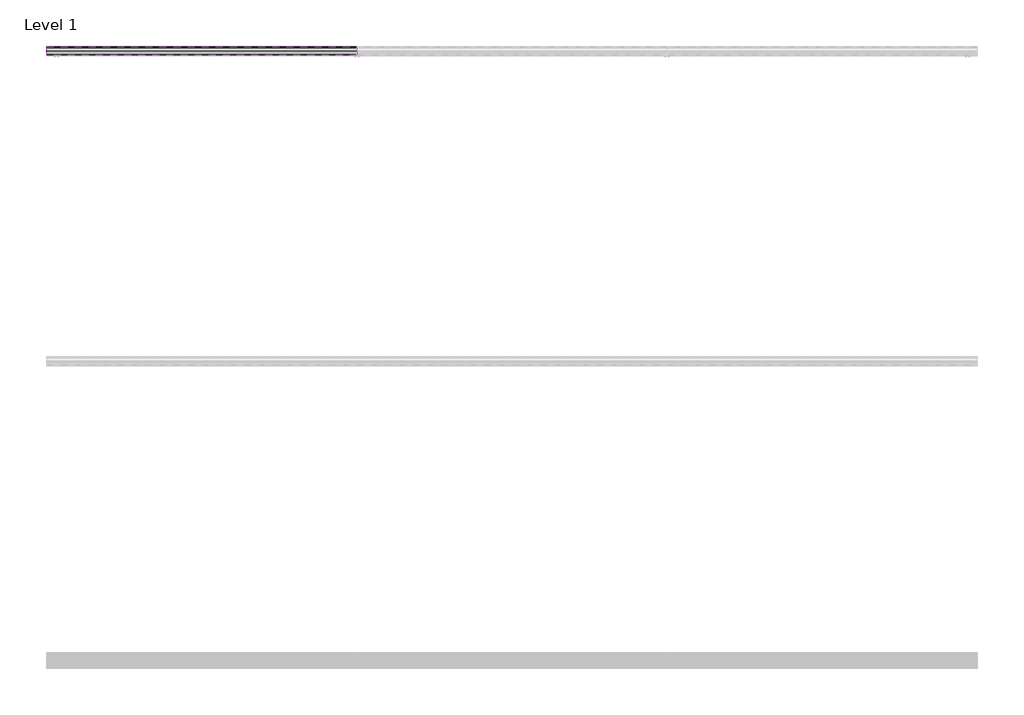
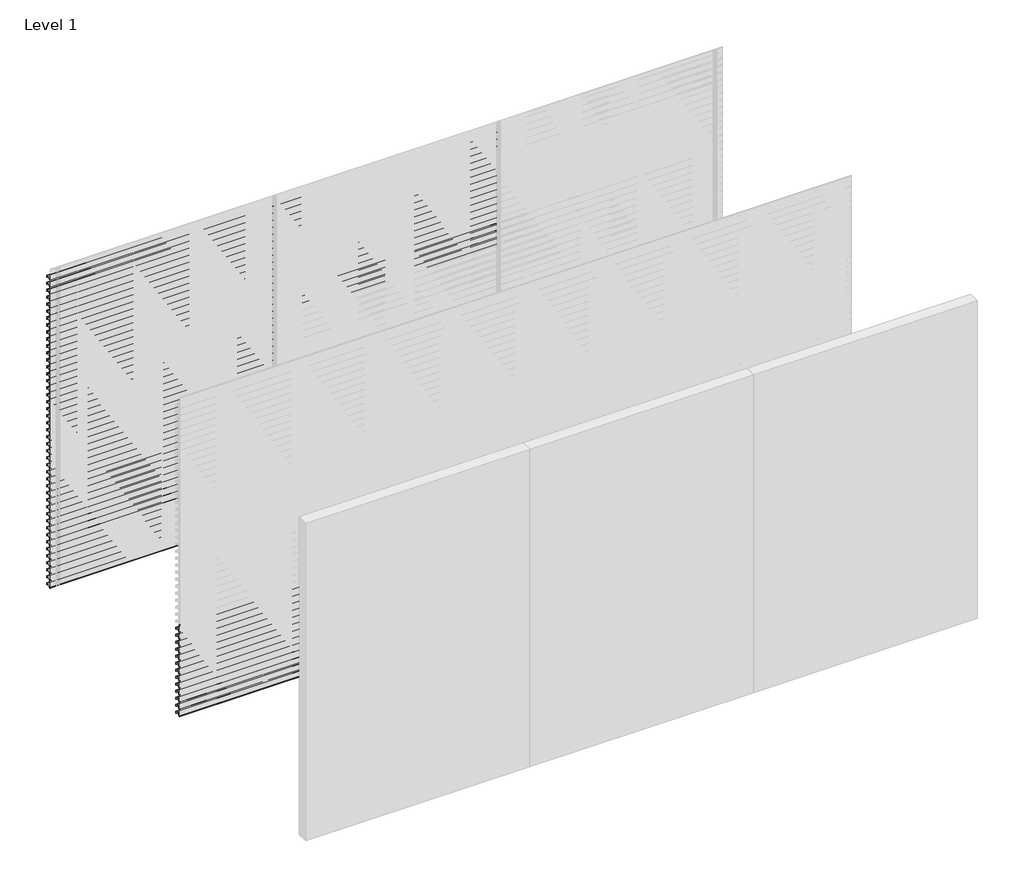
# One storey, part 26 of 27: 75 proxies.
"""IFC4 building model written with IfcOpenShell, lengths in millimetres."""

import ifcopenshell
import ifcopenshell.guid

model = None  # the IFC model being written
_history = None  # IfcOwnerHistory: only IFC2X3 demands one
_inside = {}  # id of a spatial element -> (the spatial element, [elements in it])
_under = {}  # id of a project, library or spatial element -> (it, [spatial elements below it])
_declared = {}  # id of a project -> (the project, [libraries it declares])
_typed = {}  # id of a type object -> (the type object, [elements of that type])
_made_of = {}  # id of a material, layer set ... -> (it, [elements and type objects made of it])


def new_model(schema):
    """Start an empty IFC model of exactly this schema.

    Asked for "IFC4X3", IfcOpenShell would pick the latest addendum, in which some entities
    have other attributes; the version numbers below select the first issue.
    IFC2X3 requires an IfcOwnerHistory on every rooted entity: one is made here for all.
    """
    global model, _history
    if schema == "IFC4X3":
        model = ifcopenshell.file(schema_version=(4, 3, 0, 0))
    else:
        model = ifcopenshell.file(schema=schema)
    _inside.clear()
    _under.clear()
    _declared.clear()
    _typed.clear()
    _made_of.clear()
    _history = None
    if model.schema == "IFC2X3":
        org = make("IfcOrganization", Name="unknown")
        user = make(
            "IfcPersonAndOrganization",
            ThePerson=make("IfcPerson", FamilyName="unknown"),
            TheOrganization=org,
        )
        app = make(
            "IfcApplication",
            ApplicationDeveloper=org,
            Version="unknown",
            ApplicationFullName="unknown",
            ApplicationIdentifier="unknown",
        )
        _history = make(
            "IfcOwnerHistory",
            OwningUser=user,
            OwningApplication=app,
            ChangeAction="ADDED",
            CreationDate=0,
        )
    return model


def make(cls, **values):
    """One entity of the class cls with the attributes given. An attribute that is None is left unset."""
    return model.create_entity(
        cls, **{name: value for name, value in values.items() if value is not None}
    )


def rooted(cls, **values):
    """An entity with a GlobalId (a new one), such as an element, a storey or a relation."""
    return make(cls, GlobalId=ifcopenshell.guid.new(), OwnerHistory=_history, **values)


def si_unit(unit_type, name, prefix=None):
    """IfcSIUnit, for example si_unit("LENGTHUNIT", "METRE", prefix="MILLI")."""
    return make("IfcSIUnit", UnitType=unit_type, Prefix=prefix, Name=name)


def assignment(units):
    """IfcUnitAssignment: the units of a project."""
    return None if units is None else make("IfcUnitAssignment", Units=units)


def point(xyz):
    """IfcCartesianPoint."""
    return None if xyz is None else make("IfcCartesianPoint", Coordinates=xyz)


def direction(xyz):
    """IfcDirection."""
    return None if xyz is None else make("IfcDirection", DirectionRatios=xyz)


def frame(location, z_axis=None, x_axis=None):
    """IfcAxis2Placement3D, a coordinate frame: its origin and axes. An axis left out is left unset."""
    return make(
        "IfcAxis2Placement3D",
        Location=point(location),
        Axis=direction(z_axis),
        RefDirection=direction(x_axis),
    )


def origin():
    """The frame at (0, 0, 0) with its axes left unset."""
    return frame((0.0, 0.0, 0.0))


def place(relative_to, where):
    """IfcLocalPlacement: puts the frame where relative to a parent placement (None: the world)."""
    return make(
        "IfcLocalPlacement", PlacementRelTo=relative_to, RelativePlacement=where
    )


def context(
    kind, dimensions, precision=None, world=None, true_north=None, identifier=None
):
    """IfcGeometricRepresentationContext, for example the 3D "Model" context."""
    return make(
        "IfcGeometricRepresentationContext",
        ContextIdentifier=identifier,
        ContextType=kind,
        CoordinateSpaceDimension=dimensions,
        Precision=precision,
        WorldCoordinateSystem=world,
        TrueNorth=true_north,
    )


def project(units=None, contexts=None):
    """IfcProject with its units and contexts."""
    return rooted(
        "IfcProject",
        Name="project",
        RepresentationContexts=contexts,
        UnitsInContext=assignment(units),
    )


def spatial(cls, under=None, at=None, **own):
    """A site, building, storey or space (cls), placed at a placement, below another one or the project."""
    s = rooted(cls, ObjectPlacement=at, **own)
    if under is not None:
        _under.setdefault(under.id(), (under, []))[1].append(s)
    return s


def polyline(points):
    """IfcPolyline through the points."""
    return make("IfcPolyline", Points=[point(p) for p in points])


def outline(outer, holes=None, kind="AREA"):
    """IfcArbitraryClosedProfileDef: a profile drawn as a closed curve; with holes, ...WithVoids."""
    if holes is None:
        return make("IfcArbitraryClosedProfileDef", ProfileType=kind, OuterCurve=outer)
    return make(
        "IfcArbitraryProfileDefWithVoids",
        ProfileType=kind,
        OuterCurve=outer,
        InnerCurves=holes,
    )


def extrude(swept, where, along, depth):
    """IfcExtrudedAreaSolid: the profile swept, set in the frame where, extruded along a direction by depth."""
    return make(
        "IfcExtrudedAreaSolid",
        SweptArea=swept,
        Position=where,
        ExtrudedDirection=direction(along),
        Depth=depth,
    )


def shape(context_of_items, identifier, shape_type, items):
    """IfcShapeRepresentation: the items that make up one representation, for example the "Body"."""
    return make(
        "IfcShapeRepresentation",
        ContextOfItems=context_of_items,
        RepresentationIdentifier=identifier,
        RepresentationType=shape_type,
        Items=items,
    )


def made_of(thing, what):
    """Note that an element or type object is made of a material, layer set ...; save() writes the relation."""
    if what is not None:
        _made_of.setdefault(what.id(), (what, []))[1].append(thing)
    return thing


def element(
    cls,
    number,
    at=None,
    inside=None,
    cuts=None,
    type_object=None,
    material=None,
    context=None,
    identifier="Body",
    shape_type=None,
    held_by="IfcProductDefinitionShape",
    body=None,
    shapes=None,
    **own,
):
    """One element of the class cls, such as IfcWall. Its Tag is "e" and its number.

    at: its placement. inside: the storey or other place that contains it. cuts: it is an
    opening in that element (IfcRelVoidsElement). A single representation is given by context,
    identifier, shape_type and body (its items); several are given by shapes. held_by: the class
    of the entity that holds the representations. save() writes the other relations.
    """
    e = rooted(cls, Tag="e%d" % number, ObjectPlacement=at, **own)
    if body is not None:
        shapes = [shape(context, identifier, shape_type, body)]
    if shapes is not None:
        e.Representation = make(held_by, Representations=shapes)
    if inside is not None:
        _inside.setdefault(inside.id(), (inside, []))[1].append(e)
    if cuts is not None:
        rooted(
            "IfcRelVoidsElement", RelatingBuildingElement=cuts, RelatedOpeningElement=e
        )
    if type_object is not None:
        _typed.setdefault(type_object.id(), (type_object, []))[1].append(e)
    return made_of(e, material)


def aggregate(whole, parts):
    """IfcRelAggregates: a whole, such as a stair, and the parts it consists of."""
    return rooted("IfcRelAggregates", RelatingObject=whole, RelatedObjects=parts)


def save(model, path):
    """Write the relations noted so far, then the file.

    IfcRelAggregates (storeys below a building ...), IfcRelContainedInSpatialStructure (elements
    in a storey), IfcRelDefinesByType, IfcRelAssociatesMaterial and IfcRelDeclares: one each for
    every whole, place, type object, material and project.
    """
    for whole, parts in _under.values():
        aggregate(whole, parts)
    for where, things in _inside.values():
        rooted(
            "IfcRelContainedInSpatialStructure",
            RelatedElements=things,
            RelatingStructure=where,
        )
    for kind, things in _typed.values():
        rooted("IfcRelDefinesByType", RelatedObjects=things, RelatingType=kind)
    for what, things in _made_of.values():
        rooted("IfcRelAssociatesMaterial", RelatedObjects=things, RelatingMaterial=what)
    for by, libraries in _declared.values():
        rooted("IfcRelDeclares", RelatingContext=by, RelatedDefinitions=libraries)
    model.write(path)


model = new_model("IFC4")

# Units and contexts
model_context = context("Model", 3, world=origin())
ifc_project = project(units=[si_unit("LENGTHUNIT", "METRE", prefix="MILLI")], contexts=[model_context])

# Site, building, storey
site = spatial("IfcSite", under=ifc_project)
building = spatial("IfcBuilding", under=site)
storey = spatial("IfcBuildingStorey", under=building, Name="Level 1", Elevation=0.0)

# Proxies
placement = place(None, origin())
element("IfcBuildingElementProxy", 1, Name="Wall Sweeps", at=placement, inside=storey, context=model_context, shape_type="SweptSolid", body=[
    extrude(outline(polyline([(57.0, 2913.2), (57.0, 2893.5), (55.75, 2894.5866084), (55.75, 2912.4872415), (36.9677914, 2925.6010889), (4.8667025, 2893.5), (3.9474637, 2894.4192388), (35.8851913, 2926.3569665), (2.0, 2950.0158044), (2.0, 2970.0), (3.25, 2970.0), (3.25, 2950.7285629), (57.0, 2913.2)])), frame((0.0, 0.0, 0.0), z_axis=(1.0, 0.0, 0.0), x_axis=(0.0, 1.0, 0.0)), (0.0, 0.0, 1.0), 2000.0),
])
element("IfcBuildingElementProxy", 2, Name="Wall Sweeps", at=placement, inside=storey, context=model_context, shape_type="SweptSolid", body=[
    extrude(outline(polyline([(57.0, 2847.2), (57.0, 2827.5), (55.75, 2828.5866084), (55.75, 2846.4872415), (36.9677914, 2859.6010889), (4.8667025, 2827.5), (3.9474637, 2828.4192388), (35.8851913, 2860.3569665), (2.0, 2884.0158044), (2.0, 2904.0), (3.25, 2904.0), (3.25, 2884.7285629), (57.0, 2847.2)])), frame((0.0, 0.0, 0.0), z_axis=(1.0, 0.0, 0.0), x_axis=(0.0, 1.0, 0.0)), (0.0, 0.0, 1.0), 2000.0),
])
element("IfcBuildingElementProxy", 3, Name="Wall Sweeps", at=placement, inside=storey, context=model_context, shape_type="SweptSolid", body=[
    extrude(outline(polyline([(57.0, 2781.2), (57.0, 2761.5), (55.75, 2762.5866084), (55.75, 2780.4872415), (36.9677914, 2793.6010889), (4.8667025, 2761.5), (3.9474637, 2762.4192388), (35.8851913, 2794.3569665), (2.0, 2818.0158044), (2.0, 2838.0), (3.25, 2838.0), (3.25, 2818.7285629), (57.0, 2781.2)])), frame((0.0, 0.0, 0.0), z_axis=(1.0, 0.0, 0.0), x_axis=(0.0, 1.0, 0.0)), (0.0, 0.0, 1.0), 2000.0),
])
element("IfcBuildingElementProxy", 4, Name="Wall Sweeps", at=placement, inside=storey, context=model_context, shape_type="SweptSolid", body=[
    extrude(outline(polyline([(57.0, 2715.2), (57.0, 2695.5), (55.75, 2696.5866084), (55.75, 2714.4872415), (36.9677914, 2727.6010889), (4.8667025, 2695.5), (3.9474637, 2696.4192388), (35.8851913, 2728.3569665), (2.0, 2752.0158044), (2.0, 2772.0), (3.25, 2772.0), (3.25, 2752.7285629), (57.0, 2715.2)])), frame((0.0, 0.0, 0.0), z_axis=(1.0, 0.0, 0.0), x_axis=(0.0, 1.0, 0.0)), (0.0, 0.0, 1.0), 2000.0),
])
element("IfcBuildingElementProxy", 5, Name="Wall Sweeps", at=placement, inside=storey, context=model_context, shape_type="SweptSolid", body=[
    extrude(outline(polyline([(57.0, 2649.2), (57.0, 2629.5), (55.75, 2630.5866084), (55.75, 2648.4872415), (36.9677914, 2661.6010889), (4.8667025, 2629.5), (3.9474637, 2630.4192388), (35.8851913, 2662.3569665), (2.0, 2686.0158044), (2.0, 2706.0), (3.25, 2706.0), (3.25, 2686.7285629), (57.0, 2649.2)])), frame((0.0, 0.0, 0.0), z_axis=(1.0, 0.0, 0.0), x_axis=(0.0, 1.0, 0.0)), (0.0, 0.0, 1.0), 2000.0),
])
element("IfcBuildingElementProxy", 6, Name="Wall Sweeps", at=placement, inside=storey, context=model_context, shape_type="SweptSolid", body=[
    extrude(outline(polyline([(57.0, 2583.2), (57.0, 2563.5), (55.75, 2564.5866084), (55.75, 2582.4872415), (36.9677914, 2595.6010889), (4.8667025, 2563.5), (3.9474637, 2564.4192388), (35.8851913, 2596.3569665), (2.0, 2620.0158044), (2.0, 2640.0), (3.25, 2640.0), (3.25, 2620.7285629), (57.0, 2583.2)])), frame((0.0, 0.0, 0.0), z_axis=(1.0, 0.0, 0.0), x_axis=(0.0, 1.0, 0.0)), (0.0, 0.0, 1.0), 2000.0),
])
element("IfcBuildingElementProxy", 7, Name="Wall Sweeps", at=placement, inside=storey, context=model_context, shape_type="SweptSolid", body=[
    extrude(outline(polyline([(57.0, 2517.2), (57.0, 2497.5), (55.75, 2498.5866084), (55.75, 2516.4872415), (36.9677914, 2529.6010889), (4.8667025, 2497.5), (3.9474637, 2498.4192388), (35.8851913, 2530.3569665), (2.0, 2554.0158044), (2.0, 2574.0), (3.25, 2574.0), (3.25, 2554.7285629), (57.0, 2517.2)])), frame((0.0, 0.0, 0.0), z_axis=(1.0, 0.0, 0.0), x_axis=(0.0, 1.0, 0.0)), (0.0, 0.0, 1.0), 2000.0),
])
element("IfcBuildingElementProxy", 8, Name="Wall Sweeps", at=placement, inside=storey, context=model_context, shape_type="SweptSolid", body=[
    extrude(outline(polyline([(57.0, 2451.2), (57.0, 2431.5), (55.75, 2432.5866084), (55.75, 2450.4872415), (36.9677914, 2463.6010889), (4.8667025, 2431.5), (3.9474637, 2432.4192388), (35.8851913, 2464.3569665), (2.0, 2488.0158044), (2.0, 2508.0), (3.25, 2508.0), (3.25, 2488.7285629), (57.0, 2451.2)])), frame((0.0, 0.0, 0.0), z_axis=(1.0, 0.0, 0.0), x_axis=(0.0, 1.0, 0.0)), (0.0, 0.0, 1.0), 2000.0),
])
element("IfcBuildingElementProxy", 9, Name="Wall Sweeps", at=placement, inside=storey, context=model_context, shape_type="SweptSolid", body=[
    extrude(outline(polyline([(57.0, 2385.2), (57.0, 2365.5), (55.75, 2366.5866084), (55.75, 2384.4872415), (36.9677914, 2397.6010889), (4.8667025, 2365.5), (3.9474637, 2366.4192388), (35.8851913, 2398.3569665), (2.0, 2422.0158044), (2.0, 2442.0), (3.25, 2442.0), (3.25, 2422.7285629), (57.0, 2385.2)])), frame((0.0, 0.0, 0.0), z_axis=(1.0, 0.0, 0.0), x_axis=(0.0, 1.0, 0.0)), (0.0, 0.0, 1.0), 2000.0),
])
element("IfcBuildingElementProxy", 10, Name="Wall Sweeps", at=placement, inside=storey, context=model_context, shape_type="SweptSolid", body=[
    extrude(outline(polyline([(57.0, 2319.2), (57.0, 2299.5), (55.75, 2300.5866084), (55.75, 2318.4872415), (36.9677914, 2331.6010889), (4.8667025, 2299.5), (3.9474637, 2300.4192388), (35.8851913, 2332.3569665), (2.0, 2356.0158044), (2.0, 2376.0), (3.25, 2376.0), (3.25, 2356.7285629), (57.0, 2319.2)])), frame((0.0, 0.0, 0.0), z_axis=(1.0, 0.0, 0.0), x_axis=(0.0, 1.0, 0.0)), (0.0, 0.0, 1.0), 2000.0),
])
element("IfcBuildingElementProxy", 11, Name="Wall Sweeps", at=placement, inside=storey, context=model_context, shape_type="SweptSolid", body=[
    extrude(outline(polyline([(57.0, 2253.2), (57.0, 2233.5), (55.75, 2234.5866084), (55.75, 2252.4872415), (36.9677914, 2265.6010889), (4.8667025, 2233.5), (3.9474637, 2234.4192388), (35.8851913, 2266.3569665), (2.0, 2290.0158044), (2.0, 2310.0), (3.25, 2310.0), (3.25, 2290.7285629), (57.0, 2253.2)])), frame((0.0, 0.0, 0.0), z_axis=(1.0, 0.0, 0.0), x_axis=(0.0, 1.0, 0.0)), (0.0, 0.0, 1.0), 2000.0),
])
element("IfcBuildingElementProxy", 12, Name="Wall Sweeps", at=placement, inside=storey, context=model_context, shape_type="SweptSolid", body=[
    extrude(outline(polyline([(57.0, 2187.2), (57.0, 2167.5), (55.75, 2168.5866084), (55.75, 2186.4872415), (36.9677914, 2199.6010889), (4.8667025, 2167.5), (3.9474637, 2168.4192388), (35.8851913, 2200.3569665), (2.0, 2224.0158044), (2.0, 2244.0), (3.25, 2244.0), (3.25, 2224.7285629), (57.0, 2187.2)])), frame((0.0, 0.0, 0.0), z_axis=(1.0, 0.0, 0.0), x_axis=(0.0, 1.0, 0.0)), (0.0, 0.0, 1.0), 2000.0),
])
element("IfcBuildingElementProxy", 13, Name="Wall Sweeps", at=placement, inside=storey, context=model_context, shape_type="SweptSolid", body=[
    extrude(outline(polyline([(57.0, 2121.2), (57.0, 2101.5), (55.75, 2102.5866084), (55.75, 2120.4872415), (36.9677914, 2133.6010889), (4.8667025, 2101.5), (3.9474637, 2102.4192388), (35.8851913, 2134.3569665), (2.0, 2158.0158044), (2.0, 2178.0), (3.25, 2178.0), (3.25, 2158.7285629), (57.0, 2121.2)])), frame((0.0, 0.0, 0.0), z_axis=(1.0, 0.0, 0.0), x_axis=(0.0, 1.0, 0.0)), (0.0, 0.0, 1.0), 2000.0),
])
element("IfcBuildingElementProxy", 14, Name="Wall Sweeps", at=placement, inside=storey, context=model_context, shape_type="SweptSolid", body=[
    extrude(outline(polyline([(57.0, 2055.2), (57.0, 2035.5), (55.75, 2036.5866084), (55.75, 2054.4872415), (36.9677914, 2067.6010889), (4.8667025, 2035.5), (3.9474637, 2036.4192388), (35.8851913, 2068.3569665), (2.0, 2092.0158044), (2.0, 2112.0), (3.25, 2112.0), (3.25, 2092.7285629), (57.0, 2055.2)])), frame((0.0, 0.0, 0.0), z_axis=(1.0, 0.0, 0.0), x_axis=(0.0, 1.0, 0.0)), (0.0, 0.0, 1.0), 2000.0),
])
element("IfcBuildingElementProxy", 15, Name="Wall Sweeps", at=placement, inside=storey, context=model_context, shape_type="SweptSolid", body=[
    extrude(outline(polyline([(57.0, 1989.2), (57.0, 1969.5), (55.75, 1970.5866084), (55.75, 1988.4872415), (36.9677914, 2001.6010889), (4.8667025, 1969.5), (3.9474637, 1970.4192388), (35.8851913, 2002.3569665), (2.0, 2026.0158044), (2.0, 2046.0), (3.25, 2046.0), (3.25, 2026.7285629), (57.0, 1989.2)])), frame((0.0, 0.0, 0.0), z_axis=(1.0, 0.0, 0.0), x_axis=(0.0, 1.0, 0.0)), (0.0, 0.0, 1.0), 2000.0),
])
element("IfcBuildingElementProxy", 16, Name="Wall Sweeps", at=placement, inside=storey, context=model_context, shape_type="SweptSolid", body=[
    extrude(outline(polyline([(57.0, 1923.2), (57.0, 1903.5), (55.75, 1904.5866084), (55.75, 1922.4872415), (36.9677914, 1935.6010889), (4.8667025, 1903.5), (3.9474637, 1904.4192388), (35.8851913, 1936.3569665), (2.0, 1960.0158044), (2.0, 1980.0), (3.25, 1980.0), (3.25, 1960.7285629), (57.0, 1923.2)])), frame((0.0, 0.0, 0.0), z_axis=(1.0, 0.0, 0.0), x_axis=(0.0, 1.0, 0.0)), (0.0, 0.0, 1.0), 2000.0),
])
element("IfcBuildingElementProxy", 17, Name="Wall Sweeps", at=placement, inside=storey, context=model_context, shape_type="SweptSolid", body=[
    extrude(outline(polyline([(57.0, 1857.2), (57.0, 1837.5), (55.75, 1838.5866084), (55.75, 1856.4872415), (36.9677914, 1869.6010889), (4.8667025, 1837.5), (3.9474637, 1838.4192388), (35.8851913, 1870.3569665), (2.0, 1894.0158044), (2.0, 1914.0), (3.25, 1914.0), (3.25, 1894.7285629), (57.0, 1857.2)])), frame((0.0, 0.0, 0.0), z_axis=(1.0, 0.0, 0.0), x_axis=(0.0, 1.0, 0.0)), (0.0, 0.0, 1.0), 2000.0),
])
element("IfcBuildingElementProxy", 18, Name="Wall Sweeps", at=placement, inside=storey, context=model_context, shape_type="SweptSolid", body=[
    extrude(outline(polyline([(57.0, 1791.2), (57.0, 1771.5), (55.75, 1772.5866084), (55.75, 1790.4872415), (36.9677914, 1803.6010889), (4.8667025, 1771.5), (3.9474637, 1772.4192388), (35.8851913, 1804.3569665), (2.0, 1828.0158044), (2.0, 1848.0), (3.25, 1848.0), (3.25, 1828.7285629), (57.0, 1791.2)])), frame((0.0, 0.0, 0.0), z_axis=(1.0, 0.0, 0.0), x_axis=(0.0, 1.0, 0.0)), (0.0, 0.0, 1.0), 2000.0),
])
element("IfcBuildingElementProxy", 19, Name="Wall Sweeps", at=placement, inside=storey, context=model_context, shape_type="SweptSolid", body=[
    extrude(outline(polyline([(57.0, 1725.2), (57.0, 1705.5), (55.75, 1706.5866084), (55.75, 1724.4872415), (36.9677914, 1737.6010889), (4.8667025, 1705.5), (3.9474637, 1706.4192388), (35.8851913, 1738.3569665), (2.0, 1762.0158044), (2.0, 1782.0), (3.25, 1782.0), (3.25, 1762.7285629), (57.0, 1725.2)])), frame((0.0, 0.0, 0.0), z_axis=(1.0, 0.0, 0.0), x_axis=(0.0, 1.0, 0.0)), (0.0, 0.0, 1.0), 2000.0),
])
element("IfcBuildingElementProxy", 20, Name="Wall Sweeps", at=placement, inside=storey, context=model_context, shape_type="SweptSolid", body=[
    extrude(outline(polyline([(57.0, 1659.2), (57.0, 1639.5), (55.75, 1640.5866084), (55.75, 1658.4872415), (36.9677914, 1671.6010889), (4.8667025, 1639.5), (3.9474637, 1640.4192388), (35.8851913, 1672.3569665), (2.0, 1696.0158044), (2.0, 1716.0), (3.25, 1716.0), (3.25, 1696.7285629), (57.0, 1659.2)])), frame((0.0, 0.0, 0.0), z_axis=(1.0, 0.0, 0.0), x_axis=(0.0, 1.0, 0.0)), (0.0, 0.0, 1.0), 2000.0),
])
element("IfcBuildingElementProxy", 21, Name="Wall Sweeps", at=placement, inside=storey, context=model_context, shape_type="SweptSolid", body=[
    extrude(outline(polyline([(57.0, 1593.2), (57.0, 1573.5), (55.75, 1574.5866084), (55.75, 1592.4872415), (36.9677914, 1605.6010889), (4.8667025, 1573.5), (3.9474637, 1574.4192388), (35.8851913, 1606.3569665), (2.0, 1630.0158044), (2.0, 1650.0), (3.25, 1650.0), (3.25, 1630.7285629), (57.0, 1593.2)])), frame((0.0, 0.0, 0.0), z_axis=(1.0, 0.0, 0.0), x_axis=(0.0, 1.0, 0.0)), (0.0, 0.0, 1.0), 2000.0),
])
element("IfcBuildingElementProxy", 22, Name="Wall Sweeps", at=placement, inside=storey, context=model_context, shape_type="SweptSolid", body=[
    extrude(outline(polyline([(57.0, 1527.2), (57.0, 1507.5), (55.75, 1508.5866084), (55.75, 1526.4872415), (36.9677914, 1539.6010889), (4.8667025, 1507.5), (3.9474637, 1508.4192388), (35.8851913, 1540.3569665), (2.0, 1564.0158044), (2.0, 1584.0), (3.25, 1584.0), (3.25, 1564.7285629), (57.0, 1527.2)])), frame((0.0, 0.0, 0.0), z_axis=(1.0, 0.0, 0.0), x_axis=(0.0, 1.0, 0.0)), (0.0, 0.0, 1.0), 2000.0),
])
element("IfcBuildingElementProxy", 23, Name="Wall Sweeps", at=placement, inside=storey, context=model_context, shape_type="SweptSolid", body=[
    extrude(outline(polyline([(57.0, 1461.2), (57.0, 1441.5), (55.75, 1442.5866084), (55.75, 1460.4872415), (36.9677914, 1473.6010889), (4.8667025, 1441.5), (3.9474637, 1442.4192388), (35.8851913, 1474.3569665), (2.0, 1498.0158044), (2.0, 1518.0), (3.25, 1518.0), (3.25, 1498.7285629), (57.0, 1461.2)])), frame((0.0, 0.0, 0.0), z_axis=(1.0, 0.0, 0.0), x_axis=(0.0, 1.0, 0.0)), (0.0, 0.0, 1.0), 2000.0),
])
element("IfcBuildingElementProxy", 24, Name="Wall Sweeps", at=placement, inside=storey, context=model_context, shape_type="SweptSolid", body=[
    extrude(outline(polyline([(57.0, 1395.2), (57.0, 1375.5), (55.75, 1376.5866084), (55.75, 1394.4872415), (36.9677914, 1407.6010889), (4.8667025, 1375.5), (3.9474637, 1376.4192388), (35.8851913, 1408.3569665), (2.0, 1432.0158044), (2.0, 1452.0), (3.25, 1452.0), (3.25, 1432.7285629), (57.0, 1395.2)])), frame((0.0, 0.0, 0.0), z_axis=(1.0, 0.0, 0.0), x_axis=(0.0, 1.0, 0.0)), (0.0, 0.0, 1.0), 2000.0),
])
element("IfcBuildingElementProxy", 25, Name="Wall Sweeps", at=placement, inside=storey, context=model_context, shape_type="SweptSolid", body=[
    extrude(outline(polyline([(57.0, 1329.2), (57.0, 1309.5), (55.75, 1310.5866084), (55.75, 1328.4872415), (36.9677914, 1341.6010889), (4.8667025, 1309.5), (3.9474637, 1310.4192388), (35.8851913, 1342.3569665), (2.0, 1366.0158044), (2.0, 1386.0), (3.25, 1386.0), (3.25, 1366.7285629), (57.0, 1329.2)])), frame((0.0, 0.0, 0.0), z_axis=(1.0, 0.0, 0.0), x_axis=(0.0, 1.0, 0.0)), (0.0, 0.0, 1.0), 2000.0),
])
element("IfcBuildingElementProxy", 26, Name="Wall Sweeps", at=placement, inside=storey, context=model_context, shape_type="SweptSolid", body=[
    extrude(outline(polyline([(57.0, 1263.2), (57.0, 1243.5), (55.75, 1244.5866084), (55.75, 1262.4872415), (36.9677914, 1275.6010889), (4.8667025, 1243.5), (3.9474637, 1244.4192388), (35.8851913, 1276.3569665), (2.0, 1300.0158044), (2.0, 1320.0), (3.25, 1320.0), (3.25, 1300.7285629), (57.0, 1263.2)])), frame((0.0, 0.0, 0.0), z_axis=(1.0, 0.0, 0.0), x_axis=(0.0, 1.0, 0.0)), (0.0, 0.0, 1.0), 2000.0),
])
element("IfcBuildingElementProxy", 27, Name="Wall Sweeps", at=placement, inside=storey, context=model_context, shape_type="SweptSolid", body=[
    extrude(outline(polyline([(57.0, 1197.2), (57.0, 1177.5), (55.75, 1178.5866084), (55.75, 1196.4872415), (36.9677914, 1209.6010889), (4.8667025, 1177.5), (3.9474637, 1178.4192388), (35.8851913, 1210.3569665), (2.0, 1234.0158044), (2.0, 1254.0), (3.25, 1254.0), (3.25, 1234.7285629), (57.0, 1197.2)])), frame((0.0, 0.0, 0.0), z_axis=(1.0, 0.0, 0.0), x_axis=(0.0, 1.0, 0.0)), (0.0, 0.0, 1.0), 2000.0),
])
element("IfcBuildingElementProxy", 28, Name="Wall Sweeps", at=placement, inside=storey, context=model_context, shape_type="SweptSolid", body=[
    extrude(outline(polyline([(57.0, 1131.2), (57.0, 1111.5), (55.75, 1112.5866084), (55.75, 1130.4872415), (36.9677914, 1143.6010889), (4.8667025, 1111.5), (3.9474637, 1112.4192388), (35.8851913, 1144.3569665), (2.0, 1168.0158044), (2.0, 1188.0), (3.25, 1188.0), (3.25, 1168.7285629), (57.0, 1131.2)])), frame((0.0, 0.0, 0.0), z_axis=(1.0, 0.0, 0.0), x_axis=(0.0, 1.0, 0.0)), (0.0, 0.0, 1.0), 2000.0),
])
element("IfcBuildingElementProxy", 29, Name="Wall Sweeps", at=placement, inside=storey, context=model_context, shape_type="SweptSolid", body=[
    extrude(outline(polyline([(57.0, 1065.2), (57.0, 1045.5), (55.75, 1046.5866084), (55.75, 1064.4872415), (36.9677914, 1077.6010889), (4.8667025, 1045.5), (3.9474637, 1046.4192388), (35.8851913, 1078.3569665), (2.0, 1102.0158044), (2.0, 1122.0), (3.25, 1122.0), (3.25, 1102.7285629), (57.0, 1065.2)])), frame((0.0, 0.0, 0.0), z_axis=(1.0, 0.0, 0.0), x_axis=(0.0, 1.0, 0.0)), (0.0, 0.0, 1.0), 2000.0),
])
element("IfcBuildingElementProxy", 30, Name="Wall Sweeps", at=placement, inside=storey, context=model_context, shape_type="SweptSolid", body=[
    extrude(outline(polyline([(57.0, 999.2), (57.0, 979.5), (55.75, 980.5866084), (55.75, 998.4872415), (36.9677914, 1011.6010889), (4.8667025, 979.5), (3.9474637, 980.4192388), (35.8851913, 1012.3569665), (2.0, 1036.0158044), (2.0, 1056.0), (3.25, 1056.0), (3.25, 1036.7285629), (57.0, 999.2)])), frame((0.0, 0.0, 0.0), z_axis=(1.0, 0.0, 0.0), x_axis=(0.0, 1.0, 0.0)), (0.0, 0.0, 1.0), 2000.0),
])
element("IfcBuildingElementProxy", 31, Name="Wall Sweeps", at=placement, inside=storey, context=model_context, shape_type="SweptSolid", body=[
    extrude(outline(polyline([(57.0, 933.2), (57.0, 913.5), (55.75, 914.5866084), (55.75, 932.4872415), (36.9677914, 945.6010889), (4.8667025, 913.5), (3.9474637, 914.4192388), (35.8851913, 946.3569665), (2.0, 970.0158044), (2.0, 990.0), (3.25, 990.0), (3.25, 970.7285629), (57.0, 933.2)])), frame((0.0, 0.0, 0.0), z_axis=(1.0, 0.0, 0.0), x_axis=(0.0, 1.0, 0.0)), (0.0, 0.0, 1.0), 2000.0),
])
element("IfcBuildingElementProxy", 32, Name="Wall Sweeps", at=placement, inside=storey, context=model_context, shape_type="SweptSolid", body=[
    extrude(outline(polyline([(57.0, 867.2), (57.0, 847.5), (55.75, 848.5866084), (55.75, 866.4872415), (36.9677914, 879.6010889), (4.8667025, 847.5), (3.9474637, 848.4192388), (35.8851913, 880.3569665), (2.0, 904.0158044), (2.0, 924.0), (3.25, 924.0), (3.25, 904.7285629), (57.0, 867.2)])), frame((0.0, 0.0, 0.0), z_axis=(1.0, 0.0, 0.0), x_axis=(0.0, 1.0, 0.0)), (0.0, 0.0, 1.0), 2000.0),
])
element("IfcBuildingElementProxy", 33, Name="Wall Sweeps", at=placement, inside=storey, context=model_context, shape_type="SweptSolid", body=[
    extrude(outline(polyline([(57.0, 801.2), (57.0, 781.5), (55.75, 782.5866084), (55.75, 800.4872415), (36.9677914, 813.6010889), (4.8667025, 781.5), (3.9474637, 782.4192388), (35.8851913, 814.3569665), (2.0, 838.0158044), (2.0, 858.0), (3.25, 858.0), (3.25, 838.7285629), (57.0, 801.2)])), frame((0.0, 0.0, 0.0), z_axis=(1.0, 0.0, 0.0), x_axis=(0.0, 1.0, 0.0)), (0.0, 0.0, 1.0), 2000.0),
])
element("IfcBuildingElementProxy", 34, Name="Wall Sweeps", at=placement, inside=storey, context=model_context, shape_type="SweptSolid", body=[
    extrude(outline(polyline([(57.0, 735.2), (57.0, 715.5), (55.75, 716.5866084), (55.75, 734.4872415), (36.9677914, 747.6010889), (4.8667025, 715.5), (3.9474637, 716.4192388), (35.8851913, 748.3569665), (2.0, 772.0158044), (2.0, 792.0), (3.25, 792.0), (3.25, 772.7285629), (57.0, 735.2)])), frame((0.0, 0.0, 0.0), z_axis=(1.0, 0.0, 0.0), x_axis=(0.0, 1.0, 0.0)), (0.0, 0.0, 1.0), 2000.0),
])
element("IfcBuildingElementProxy", 35, Name="Wall Sweeps", at=placement, inside=storey, context=model_context, shape_type="SweptSolid", body=[
    extrude(outline(polyline([(57.0, 669.2), (57.0, 649.5), (55.75, 650.5866084), (55.75, 668.4872415), (36.9677914, 681.6010889), (4.8667025, 649.5), (3.9474637, 650.4192388), (35.8851913, 682.3569665), (2.0, 706.0158044), (2.0, 726.0), (3.25, 726.0), (3.25, 706.7285629), (57.0, 669.2)])), frame((0.0, 0.0, 0.0), z_axis=(1.0, 0.0, 0.0), x_axis=(0.0, 1.0, 0.0)), (0.0, 0.0, 1.0), 2000.0),
])
element("IfcBuildingElementProxy", 36, Name="Wall Sweeps", at=placement, inside=storey, context=model_context, shape_type="SweptSolid", body=[
    extrude(outline(polyline([(57.0, 603.2), (57.0, 583.5), (55.75, 584.5866084), (55.75, 602.4872415), (36.9677914, 615.6010889), (4.8667025, 583.5), (3.9474637, 584.4192388), (35.8851913, 616.3569665), (2.0, 640.0158044), (2.0, 660.0), (3.25, 660.0), (3.25, 640.7285629), (57.0, 603.2)])), frame((0.0, 0.0, 0.0), z_axis=(1.0, 0.0, 0.0), x_axis=(0.0, 1.0, 0.0)), (0.0, 0.0, 1.0), 2000.0),
])
element("IfcBuildingElementProxy", 37, Name="Wall Sweeps", at=placement, inside=storey, context=model_context, shape_type="SweptSolid", body=[
    extrude(outline(polyline([(57.0, 537.2), (57.0, 517.5), (55.75, 518.5866084), (55.75, 536.4872415), (36.9677914, 549.6010889), (4.8667025, 517.5), (3.9474637, 518.4192388), (35.8851913, 550.3569665), (2.0, 574.0158044), (2.0, 594.0), (3.25, 594.0), (3.25, 574.7285629), (57.0, 537.2)])), frame((0.0, 0.0, 0.0), z_axis=(1.0, 0.0, 0.0), x_axis=(0.0, 1.0, 0.0)), (0.0, 0.0, 1.0), 2000.0),
])
element("IfcBuildingElementProxy", 38, Name="Wall Sweeps", at=placement, inside=storey, context=model_context, shape_type="SweptSolid", body=[
    extrude(outline(polyline([(57.0, 471.2), (57.0, 451.5), (55.75, 452.5866084), (55.75, 470.4872415), (36.9677914, 483.6010889), (4.8667025, 451.5), (3.9474637, 452.4192388), (35.8851913, 484.3569665), (2.0, 508.0158044), (2.0, 528.0), (3.25, 528.0), (3.25, 508.7285629), (57.0, 471.2)])), frame((0.0, 0.0, 0.0), z_axis=(1.0, 0.0, 0.0), x_axis=(0.0, 1.0, 0.0)), (0.0, 0.0, 1.0), 2000.0),
])
element("IfcBuildingElementProxy", 39, Name="Wall Sweeps", at=placement, inside=storey, context=model_context, shape_type="SweptSolid", body=[
    extrude(outline(polyline([(57.0, 405.2), (57.0, 385.5), (55.75, 386.5866084), (55.75, 404.4872415), (36.9677914, 417.6010889), (4.8667025, 385.5), (3.9474637, 386.4192388), (35.8851913, 418.3569665), (2.0, 442.0158044), (2.0, 462.0), (3.25, 462.0), (3.25, 442.7285629), (57.0, 405.2)])), frame((0.0, 0.0, 0.0), z_axis=(1.0, 0.0, 0.0), x_axis=(0.0, 1.0, 0.0)), (0.0, 0.0, 1.0), 2000.0),
])
element("IfcBuildingElementProxy", 40, Name="Wall Sweeps", at=placement, inside=storey, context=model_context, shape_type="SweptSolid", body=[
    extrude(outline(polyline([(57.0, 339.2), (57.0, 319.5), (55.75, 320.5866084), (55.75, 338.4872415), (36.9677914, 351.6010889), (4.8667025, 319.5), (3.9474637, 320.4192388), (35.8851913, 352.3569665), (2.0, 376.0158044), (2.0, 396.0), (3.25, 396.0), (3.25, 376.7285629), (57.0, 339.2)])), frame((0.0, 0.0, 0.0), z_axis=(1.0, 0.0, 0.0), x_axis=(0.0, 1.0, 0.0)), (0.0, 0.0, 1.0), 2000.0),
])
element("IfcBuildingElementProxy", 41, Name="Wall Sweeps", at=placement, inside=storey, context=model_context, shape_type="SweptSolid", body=[
    extrude(outline(polyline([(57.0, 273.2), (57.0, 253.5), (55.75, 254.5866084), (55.75, 272.4872415), (36.9677914, 285.6010889), (4.8667025, 253.5), (3.9474637, 254.4192388), (35.8851913, 286.3569665), (2.0, 310.0158044), (2.0, 330.0), (3.25, 330.0), (3.25, 310.7285629), (57.0, 273.2)])), frame((0.0, 0.0, 0.0), z_axis=(1.0, 0.0, 0.0), x_axis=(0.0, 1.0, 0.0)), (0.0, 0.0, 1.0), 2000.0),
])
element("IfcBuildingElementProxy", 42, Name="Wall Sweeps", at=placement, inside=storey, context=model_context, shape_type="SweptSolid", body=[
    extrude(outline(polyline([(57.0, 207.2), (57.0, 187.5), (55.75, 188.5866084), (55.75, 206.4872415), (36.9677914, 219.6010889), (4.8667025, 187.5), (3.9474637, 188.4192388), (35.8851913, 220.3569665), (2.0, 244.0158044), (2.0, 264.0), (3.25, 264.0), (3.25, 244.7285629), (57.0, 207.2)])), frame((0.0, 0.0, 0.0), z_axis=(1.0, 0.0, 0.0), x_axis=(0.0, 1.0, 0.0)), (0.0, 0.0, 1.0), 2000.0),
])
element("IfcBuildingElementProxy", 43, Name="Wall Sweeps", at=placement, inside=storey, context=model_context, shape_type="SweptSolid", body=[
    extrude(outline(polyline([(57.0, 141.2), (57.0, 121.5), (55.75, 122.5866084), (55.75, 140.4872415), (36.9677914, 153.6010889), (4.8667025, 121.5), (3.9474637, 122.4192388), (35.8851913, 154.3569665), (2.0, 178.0158044), (2.0, 198.0), (3.25, 198.0), (3.25, 178.7285629), (57.0, 141.2)])), frame((0.0, 0.0, 0.0), z_axis=(1.0, 0.0, 0.0), x_axis=(0.0, 1.0, 0.0)), (0.0, 0.0, 1.0), 2000.0),
])
element("IfcBuildingElementProxy", 44, Name="Wall Sweeps", at=placement, inside=storey, context=model_context, shape_type="SweptSolid", body=[
    extrude(outline(polyline([(57.0, 75.2), (57.0, 55.5), (55.75, 56.5866084), (55.75, 74.4872415), (36.9677914, 87.6010889), (4.8667025, 55.5), (3.9474637, 56.4192388), (35.8851913, 88.3569665), (2.0, 112.0158044), (2.0, 132.0), (3.25, 132.0), (3.25, 112.7285629), (57.0, 75.2)])), frame((0.0, 0.0, 0.0), z_axis=(1.0, 0.0, 0.0), x_axis=(0.0, 1.0, 0.0)), (0.0, 0.0, 1.0), 2000.0),
])
element("IfcBuildingElementProxy", 45, Name="Wall Sweeps", at=placement, inside=storey, context=model_context, shape_type="SweptSolid", body=[
    extrude(outline(polyline([(57.0, 9.2), (57.0, -10.5), (55.75, -9.4133916), (55.75, 8.4872415), (36.9677914, 21.6010889), (4.8667025, -10.5), (3.9474637, -9.5807612), (35.8851913, 22.3569665), (2.0, 46.0158044), (2.0, 66.0), (3.25, 66.0), (3.25, 46.7285629), (57.0, 9.2)])), frame((0.0, 0.0, 0.0), z_axis=(1.0, 0.0, 0.0), x_axis=(0.0, 1.0, 0.0)), (0.0, 0.0, 1.0), 2000.0),
])
element("IfcBuildingElementProxy", 46, Name="Wall Sweeps", at=placement, inside=storey, context=model_context, shape_type="SweptSolid", body=[
    extrude(outline(polyline([(57.0, 2913.2), (57.0, 2893.5), (55.75, 2894.5866084), (55.75, 2912.4872415), (36.9677914, 2925.6010889), (4.8667025, 2893.5), (3.9474637, 2894.4192388), (35.8851913, 2926.3569665), (2.0, 2950.0158044), (2.0, 2970.0), (3.25, 2970.0), (3.25, 2950.7285629), (57.0, 2913.2)])), frame((2000.0, 0.0, 0.0), z_axis=(1.0, 0.0, 0.0), x_axis=(0.0, 1.0, 0.0)), (0.0, 0.0, 1.0), 2000.0),
])
element("IfcBuildingElementProxy", 47, Name="Wall Sweeps", at=placement, inside=storey, context=model_context, shape_type="SweptSolid", body=[
    extrude(outline(polyline([(57.0, 2847.2), (57.0, 2827.5), (55.75, 2828.5866084), (55.75, 2846.4872415), (36.9677914, 2859.6010889), (4.8667025, 2827.5), (3.9474637, 2828.4192388), (35.8851913, 2860.3569665), (2.0, 2884.0158044), (2.0, 2904.0), (3.25, 2904.0), (3.25, 2884.7285629), (57.0, 2847.2)])), frame((2000.0, 0.0, 0.0), z_axis=(1.0, 0.0, 0.0), x_axis=(0.0, 1.0, 0.0)), (0.0, 0.0, 1.0), 2000.0),
])
element("IfcBuildingElementProxy", 48, Name="Wall Sweeps", at=placement, inside=storey, context=model_context, shape_type="SweptSolid", body=[
    extrude(outline(polyline([(57.0, 2781.2), (57.0, 2761.5), (55.75, 2762.5866084), (55.75, 2780.4872415), (36.9677914, 2793.6010889), (4.8667025, 2761.5), (3.9474637, 2762.4192388), (35.8851913, 2794.3569665), (2.0, 2818.0158044), (2.0, 2838.0), (3.25, 2838.0), (3.25, 2818.7285629), (57.0, 2781.2)])), frame((2000.0, 0.0, 0.0), z_axis=(1.0, 0.0, 0.0), x_axis=(0.0, 1.0, 0.0)), (0.0, 0.0, 1.0), 2000.0),
])
element("IfcBuildingElementProxy", 49, Name="Wall Sweeps", at=placement, inside=storey, context=model_context, shape_type="SweptSolid", body=[
    extrude(outline(polyline([(57.0, 2715.2), (57.0, 2695.5), (55.75, 2696.5866084), (55.75, 2714.4872415), (36.9677914, 2727.6010889), (4.8667025, 2695.5), (3.9474637, 2696.4192388), (35.8851913, 2728.3569665), (2.0, 2752.0158044), (2.0, 2772.0), (3.25, 2772.0), (3.25, 2752.7285629), (57.0, 2715.2)])), frame((2000.0, 0.0, 0.0), z_axis=(1.0, 0.0, 0.0), x_axis=(0.0, 1.0, 0.0)), (0.0, 0.0, 1.0), 2000.0),
])
element("IfcBuildingElementProxy", 50, Name="Wall Sweeps", at=placement, inside=storey, context=model_context, shape_type="SweptSolid", body=[
    extrude(outline(polyline([(57.0, 2649.2), (57.0, 2629.5), (55.75, 2630.5866084), (55.75, 2648.4872415), (36.9677914, 2661.6010889), (4.8667025, 2629.5), (3.9474637, 2630.4192388), (35.8851913, 2662.3569665), (2.0, 2686.0158044), (2.0, 2706.0), (3.25, 2706.0), (3.25, 2686.7285629), (57.0, 2649.2)])), frame((2000.0, 0.0, 0.0), z_axis=(1.0, 0.0, 0.0), x_axis=(0.0, 1.0, 0.0)), (0.0, 0.0, 1.0), 2000.0),
])
element("IfcBuildingElementProxy", 51, Name="Wall Sweeps", at=placement, inside=storey, context=model_context, shape_type="SweptSolid", body=[
    extrude(outline(polyline([(57.0, 2583.2), (57.0, 2563.5), (55.75, 2564.5866084), (55.75, 2582.4872415), (36.9677914, 2595.6010889), (4.8667025, 2563.5), (3.9474637, 2564.4192388), (35.8851913, 2596.3569665), (2.0, 2620.0158044), (2.0, 2640.0), (3.25, 2640.0), (3.25, 2620.7285629), (57.0, 2583.2)])), frame((2000.0, 0.0, 0.0), z_axis=(1.0, 0.0, 0.0), x_axis=(0.0, 1.0, 0.0)), (0.0, 0.0, 1.0), 2000.0),
])
element("IfcBuildingElementProxy", 52, Name="Wall Sweeps", at=placement, inside=storey, context=model_context, shape_type="SweptSolid", body=[
    extrude(outline(polyline([(57.0, 2517.2), (57.0, 2497.5), (55.75, 2498.5866084), (55.75, 2516.4872415), (36.9677914, 2529.6010889), (4.8667025, 2497.5), (3.9474637, 2498.4192388), (35.8851913, 2530.3569665), (2.0, 2554.0158044), (2.0, 2574.0), (3.25, 2574.0), (3.25, 2554.7285629), (57.0, 2517.2)])), frame((2000.0, 0.0, 0.0), z_axis=(1.0, 0.0, 0.0), x_axis=(0.0, 1.0, 0.0)), (0.0, 0.0, 1.0), 2000.0),
])
element("IfcBuildingElementProxy", 53, Name="Wall Sweeps", at=placement, inside=storey, context=model_context, shape_type="SweptSolid", body=[
    extrude(outline(polyline([(57.0, 2451.2), (57.0, 2431.5), (55.75, 2432.5866084), (55.75, 2450.4872415), (36.9677914, 2463.6010889), (4.8667025, 2431.5), (3.9474637, 2432.4192388), (35.8851913, 2464.3569665), (2.0, 2488.0158044), (2.0, 2508.0), (3.25, 2508.0), (3.25, 2488.7285629), (57.0, 2451.2)])), frame((2000.0, 0.0, 0.0), z_axis=(1.0, 0.0, 0.0), x_axis=(0.0, 1.0, 0.0)), (0.0, 0.0, 1.0), 2000.0),
])
element("IfcBuildingElementProxy", 54, Name="Wall Sweeps", at=placement, inside=storey, context=model_context, shape_type="SweptSolid", body=[
    extrude(outline(polyline([(57.0, 2385.2), (57.0, 2365.5), (55.75, 2366.5866084), (55.75, 2384.4872415), (36.9677914, 2397.6010889), (4.8667025, 2365.5), (3.9474637, 2366.4192388), (35.8851913, 2398.3569665), (2.0, 2422.0158044), (2.0, 2442.0), (3.25, 2442.0), (3.25, 2422.7285629), (57.0, 2385.2)])), frame((2000.0, 0.0, 0.0), z_axis=(1.0, 0.0, 0.0), x_axis=(0.0, 1.0, 0.0)), (0.0, 0.0, 1.0), 2000.0),
])
element("IfcBuildingElementProxy", 55, Name="Wall Sweeps", at=placement, inside=storey, context=model_context, shape_type="SweptSolid", body=[
    extrude(outline(polyline([(57.0, 2319.2), (57.0, 2299.5), (55.75, 2300.5866084), (55.75, 2318.4872415), (36.9677914, 2331.6010889), (4.8667025, 2299.5), (3.9474637, 2300.4192388), (35.8851913, 2332.3569665), (2.0, 2356.0158044), (2.0, 2376.0), (3.25, 2376.0), (3.25, 2356.7285629), (57.0, 2319.2)])), frame((2000.0, 0.0, 0.0), z_axis=(1.0, 0.0, 0.0), x_axis=(0.0, 1.0, 0.0)), (0.0, 0.0, 1.0), 2000.0),
])
element("IfcBuildingElementProxy", 56, Name="Wall Sweeps", at=placement, inside=storey, context=model_context, shape_type="SweptSolid", body=[
    extrude(outline(polyline([(57.0, 2253.2), (57.0, 2233.5), (55.75, 2234.5866084), (55.75, 2252.4872415), (36.9677914, 2265.6010889), (4.8667025, 2233.5), (3.9474637, 2234.4192388), (35.8851913, 2266.3569665), (2.0, 2290.0158044), (2.0, 2310.0), (3.25, 2310.0), (3.25, 2290.7285629), (57.0, 2253.2)])), frame((2000.0, 0.0, 0.0), z_axis=(1.0, 0.0, 0.0), x_axis=(0.0, 1.0, 0.0)), (0.0, 0.0, 1.0), 2000.0),
])
element("IfcBuildingElementProxy", 57, Name="Wall Sweeps", at=placement, inside=storey, context=model_context, shape_type="SweptSolid", body=[
    extrude(outline(polyline([(57.0, 2187.2), (57.0, 2167.5), (55.75, 2168.5866084), (55.75, 2186.4872415), (36.9677914, 2199.6010889), (4.8667025, 2167.5), (3.9474637, 2168.4192388), (35.8851913, 2200.3569665), (2.0, 2224.0158044), (2.0, 2244.0), (3.25, 2244.0), (3.25, 2224.7285629), (57.0, 2187.2)])), frame((2000.0, 0.0, 0.0), z_axis=(1.0, 0.0, 0.0), x_axis=(0.0, 1.0, 0.0)), (0.0, 0.0, 1.0), 2000.0),
])
element("IfcBuildingElementProxy", 58, Name="Wall Sweeps", at=placement, inside=storey, context=model_context, shape_type="SweptSolid", body=[
    extrude(outline(polyline([(57.0, 2121.2), (57.0, 2101.5), (55.75, 2102.5866084), (55.75, 2120.4872415), (36.9677914, 2133.6010889), (4.8667025, 2101.5), (3.9474637, 2102.4192388), (35.8851913, 2134.3569665), (2.0, 2158.0158044), (2.0, 2178.0), (3.25, 2178.0), (3.25, 2158.7285629), (57.0, 2121.2)])), frame((2000.0, 0.0, 0.0), z_axis=(1.0, 0.0, 0.0), x_axis=(0.0, 1.0, 0.0)), (0.0, 0.0, 1.0), 2000.0),
])
element("IfcBuildingElementProxy", 59, Name="Wall Sweeps", at=placement, inside=storey, context=model_context, shape_type="SweptSolid", body=[
    extrude(outline(polyline([(57.0, 2055.2), (57.0, 2035.5), (55.75, 2036.5866084), (55.75, 2054.4872415), (36.9677914, 2067.6010889), (4.8667025, 2035.5), (3.9474637, 2036.4192388), (35.8851913, 2068.3569665), (2.0, 2092.0158044), (2.0, 2112.0), (3.25, 2112.0), (3.25, 2092.7285629), (57.0, 2055.2)])), frame((2000.0, 0.0, 0.0), z_axis=(1.0, 0.0, 0.0), x_axis=(0.0, 1.0, 0.0)), (0.0, 0.0, 1.0), 2000.0),
])
element("IfcBuildingElementProxy", 60, Name="Wall Sweeps", at=placement, inside=storey, context=model_context, shape_type="SweptSolid", body=[
    extrude(outline(polyline([(57.0, 1989.2), (57.0, 1969.5), (55.75, 1970.5866084), (55.75, 1988.4872415), (36.9677914, 2001.6010889), (4.8667025, 1969.5), (3.9474637, 1970.4192388), (35.8851913, 2002.3569665), (2.0, 2026.0158044), (2.0, 2046.0), (3.25, 2046.0), (3.25, 2026.7285629), (57.0, 1989.2)])), frame((2000.0, 0.0, 0.0), z_axis=(1.0, 0.0, 0.0), x_axis=(0.0, 1.0, 0.0)), (0.0, 0.0, 1.0), 2000.0),
])
element("IfcBuildingElementProxy", 61, Name="Wall Sweeps", at=placement, inside=storey, context=model_context, shape_type="SweptSolid", body=[
    extrude(outline(polyline([(57.0, 1923.2), (57.0, 1903.5), (55.75, 1904.5866084), (55.75, 1922.4872415), (36.9677914, 1935.6010889), (4.8667025, 1903.5), (3.9474637, 1904.4192388), (35.8851913, 1936.3569665), (2.0, 1960.0158044), (2.0, 1980.0), (3.25, 1980.0), (3.25, 1960.7285629), (57.0, 1923.2)])), frame((2000.0, 0.0, 0.0), z_axis=(1.0, 0.0, 0.0), x_axis=(0.0, 1.0, 0.0)), (0.0, 0.0, 1.0), 2000.0),
])
element("IfcBuildingElementProxy", 62, Name="Wall Sweeps", at=placement, inside=storey, context=model_context, shape_type="SweptSolid", body=[
    extrude(outline(polyline([(57.0, 1857.2), (57.0, 1837.5), (55.75, 1838.5866084), (55.75, 1856.4872415), (36.9677914, 1869.6010889), (4.8667025, 1837.5), (3.9474637, 1838.4192388), (35.8851913, 1870.3569665), (2.0, 1894.0158044), (2.0, 1914.0), (3.25, 1914.0), (3.25, 1894.7285629), (57.0, 1857.2)])), frame((2000.0, 0.0, 0.0), z_axis=(1.0, 0.0, 0.0), x_axis=(0.0, 1.0, 0.0)), (0.0, 0.0, 1.0), 2000.0),
])
element("IfcBuildingElementProxy", 63, Name="Wall Sweeps", at=placement, inside=storey, context=model_context, shape_type="SweptSolid", body=[
    extrude(outline(polyline([(-1943.0, 801.2), (-1943.0, 781.5), (-1944.25, 782.5866084), (-1944.25, 800.4872415), (-1963.0322086, 813.6010889), (-1995.1332975, 781.5), (-1996.0525363, 782.4192388), (-1964.1148087, 814.3569665), (-1998.0, 838.0158044), (-1998.0, 858.0), (-1996.75, 858.0), (-1996.75, 838.7285629), (-1943.0, 801.2)])), frame((0.0, 0.0, 0.0), z_axis=(1.0, 0.0, 0.0), x_axis=(0.0, 1.0, 0.0)), (0.0, 0.0, 1.0), 6000.0),
])
element("IfcBuildingElementProxy", 64, Name="Wall Sweeps", at=placement, inside=storey, context=model_context, shape_type="SweptSolid", body=[
    extrude(outline(polyline([(-1943.0, 735.2), (-1943.0, 715.5), (-1944.25, 716.5866084), (-1944.25, 734.4872415), (-1963.0322086, 747.6010889), (-1995.1332975, 715.5), (-1996.0525363, 716.4192388), (-1964.1148087, 748.3569665), (-1998.0, 772.0158044), (-1998.0, 792.0), (-1996.75, 792.0), (-1996.75, 772.7285629), (-1943.0, 735.2)])), frame((0.0, 0.0, 0.0), z_axis=(1.0, 0.0, 0.0), x_axis=(0.0, 1.0, 0.0)), (0.0, 0.0, 1.0), 6000.0),
])
element("IfcBuildingElementProxy", 65, Name="Wall Sweeps", at=placement, inside=storey, context=model_context, shape_type="SweptSolid", body=[
    extrude(outline(polyline([(-1943.0, 669.2), (-1943.0, 649.5), (-1944.25, 650.5866084), (-1944.25, 668.4872415), (-1963.0322086, 681.6010889), (-1995.1332975, 649.5), (-1996.0525363, 650.4192388), (-1964.1148087, 682.3569665), (-1998.0, 706.0158044), (-1998.0, 726.0), (-1996.75, 726.0), (-1996.75, 706.7285629), (-1943.0, 669.2)])), frame((0.0, 0.0, 0.0), z_axis=(1.0, 0.0, 0.0), x_axis=(0.0, 1.0, 0.0)), (0.0, 0.0, 1.0), 6000.0),
])
element("IfcBuildingElementProxy", 66, Name="Wall Sweeps", at=placement, inside=storey, context=model_context, shape_type="SweptSolid", body=[
    extrude(outline(polyline([(-1943.0, 603.2), (-1943.0, 583.5), (-1944.25, 584.5866084), (-1944.25, 602.4872415), (-1963.0322086, 615.6010889), (-1995.1332975, 583.5), (-1996.0525363, 584.4192388), (-1964.1148087, 616.3569665), (-1998.0, 640.0158044), (-1998.0, 660.0), (-1996.75, 660.0), (-1996.75, 640.7285629), (-1943.0, 603.2)])), frame((0.0, 0.0, 0.0), z_axis=(1.0, 0.0, 0.0), x_axis=(0.0, 1.0, 0.0)), (0.0, 0.0, 1.0), 6000.0),
])
element("IfcBuildingElementProxy", 67, Name="Wall Sweeps", at=placement, inside=storey, context=model_context, shape_type="SweptSolid", body=[
    extrude(outline(polyline([(-1943.0, 537.2), (-1943.0, 517.5), (-1944.25, 518.5866084), (-1944.25, 536.4872415), (-1963.0322086, 549.6010889), (-1995.1332975, 517.5), (-1996.0525363, 518.4192388), (-1964.1148087, 550.3569665), (-1998.0, 574.0158044), (-1998.0, 594.0), (-1996.75, 594.0), (-1996.75, 574.7285629), (-1943.0, 537.2)])), frame((0.0, 0.0, 0.0), z_axis=(1.0, 0.0, 0.0), x_axis=(0.0, 1.0, 0.0)), (0.0, 0.0, 1.0), 6000.0),
])
element("IfcBuildingElementProxy", 68, Name="Wall Sweeps", at=placement, inside=storey, context=model_context, shape_type="SweptSolid", body=[
    extrude(outline(polyline([(-1943.0, 471.2), (-1943.0, 451.5), (-1944.25, 452.5866084), (-1944.25, 470.4872415), (-1963.0322086, 483.6010889), (-1995.1332975, 451.5), (-1996.0525363, 452.4192388), (-1964.1148087, 484.3569665), (-1998.0, 508.0158044), (-1998.0, 528.0), (-1996.75, 528.0), (-1996.75, 508.7285629), (-1943.0, 471.2)])), frame((0.0, 0.0, 0.0), z_axis=(1.0, 0.0, 0.0), x_axis=(0.0, 1.0, 0.0)), (0.0, 0.0, 1.0), 6000.0),
])
element("IfcBuildingElementProxy", 69, Name="Wall Sweeps", at=placement, inside=storey, context=model_context, shape_type="SweptSolid", body=[
    extrude(outline(polyline([(-1943.0, 405.2), (-1943.0, 385.5), (-1944.25, 386.5866084), (-1944.25, 404.4872415), (-1963.0322086, 417.6010889), (-1995.1332975, 385.5), (-1996.0525363, 386.4192388), (-1964.1148087, 418.3569665), (-1998.0, 442.0158044), (-1998.0, 462.0), (-1996.75, 462.0), (-1996.75, 442.7285629), (-1943.0, 405.2)])), frame((0.0, 0.0, 0.0), z_axis=(1.0, 0.0, 0.0), x_axis=(0.0, 1.0, 0.0)), (0.0, 0.0, 1.0), 6000.0),
])
element("IfcBuildingElementProxy", 70, Name="Wall Sweeps", at=placement, inside=storey, context=model_context, shape_type="SweptSolid", body=[
    extrude(outline(polyline([(-1943.0, 339.2), (-1943.0, 319.5), (-1944.25, 320.5866084), (-1944.25, 338.4872415), (-1963.0322086, 351.6010889), (-1995.1332975, 319.5), (-1996.0525363, 320.4192388), (-1964.1148087, 352.3569665), (-1998.0, 376.0158044), (-1998.0, 396.0), (-1996.75, 396.0), (-1996.75, 376.7285629), (-1943.0, 339.2)])), frame((0.0, 0.0, 0.0), z_axis=(1.0, 0.0, 0.0), x_axis=(0.0, 1.0, 0.0)), (0.0, 0.0, 1.0), 6000.0),
])
element("IfcBuildingElementProxy", 71, Name="Wall Sweeps", at=placement, inside=storey, context=model_context, shape_type="SweptSolid", body=[
    extrude(outline(polyline([(-1943.0, 273.2), (-1943.0, 253.5), (-1944.25, 254.5866084), (-1944.25, 272.4872415), (-1963.0322086, 285.6010889), (-1995.1332975, 253.5), (-1996.0525363, 254.4192388), (-1964.1148087, 286.3569665), (-1998.0, 310.0158044), (-1998.0, 330.0), (-1996.75, 330.0), (-1996.75, 310.7285629), (-1943.0, 273.2)])), frame((0.0, 0.0, 0.0), z_axis=(1.0, 0.0, 0.0), x_axis=(0.0, 1.0, 0.0)), (0.0, 0.0, 1.0), 6000.0),
])
element("IfcBuildingElementProxy", 72, Name="Wall Sweeps", at=placement, inside=storey, context=model_context, shape_type="SweptSolid", body=[
    extrude(outline(polyline([(-1943.0, 207.2), (-1943.0, 187.5), (-1944.25, 188.5866084), (-1944.25, 206.4872415), (-1963.0322086, 219.6010889), (-1995.1332975, 187.5), (-1996.0525363, 188.4192388), (-1964.1148087, 220.3569665), (-1998.0, 244.0158044), (-1998.0, 264.0), (-1996.75, 264.0), (-1996.75, 244.7285629), (-1943.0, 207.2)])), frame((0.0, 0.0, 0.0), z_axis=(1.0, 0.0, 0.0), x_axis=(0.0, 1.0, 0.0)), (0.0, 0.0, 1.0), 6000.0),
])
element("IfcBuildingElementProxy", 73, Name="Wall Sweeps", at=placement, inside=storey, context=model_context, shape_type="SweptSolid", body=[
    extrude(outline(polyline([(-1943.0, 141.2), (-1943.0, 121.5), (-1944.25, 122.5866084), (-1944.25, 140.4872415), (-1963.0322086, 153.6010889), (-1995.1332975, 121.5), (-1996.0525363, 122.4192388), (-1964.1148087, 154.3569665), (-1998.0, 178.0158044), (-1998.0, 198.0), (-1996.75, 198.0), (-1996.75, 178.7285629), (-1943.0, 141.2)])), frame((0.0, 0.0, 0.0), z_axis=(1.0, 0.0, 0.0), x_axis=(0.0, 1.0, 0.0)), (0.0, 0.0, 1.0), 6000.0),
])
element("IfcBuildingElementProxy", 74, Name="Wall Sweeps", at=placement, inside=storey, context=model_context, shape_type="SweptSolid", body=[
    extrude(outline(polyline([(-1943.0, 75.2), (-1943.0, 55.5), (-1944.25, 56.5866084), (-1944.25, 74.4872415), (-1963.0322086, 87.6010889), (-1995.1332975, 55.5), (-1996.0525363, 56.4192388), (-1964.1148087, 88.3569665), (-1998.0, 112.0158044), (-1998.0, 132.0), (-1996.75, 132.0), (-1996.75, 112.7285629), (-1943.0, 75.2)])), frame((0.0, 0.0, 0.0), z_axis=(1.0, 0.0, 0.0), x_axis=(0.0, 1.0, 0.0)), (0.0, 0.0, 1.0), 6000.0),
])
element("IfcBuildingElementProxy", 75, Name="Wall Sweeps", at=placement, inside=storey, context=model_context, shape_type="SweptSolid", body=[
    extrude(outline(polyline([(-1943.0, 9.2), (-1943.0, -10.5), (-1944.25, -9.4133916), (-1944.25, 8.4872415), (-1963.0322086, 21.6010889), (-1995.1332975, -10.5), (-1996.0525363, -9.5807612), (-1964.1148087, 22.3569665), (-1998.0, 46.0158044), (-1998.0, 66.0), (-1996.75, 66.0), (-1996.75, 46.7285629), (-1943.0, 9.2)])), frame((0.0, 0.0, 0.0), z_axis=(1.0, 0.0, 0.0), x_axis=(0.0, 1.0, 0.0)), (0.0, 0.0, 1.0), 6000.0),
])

save(model, "model.ifc")
